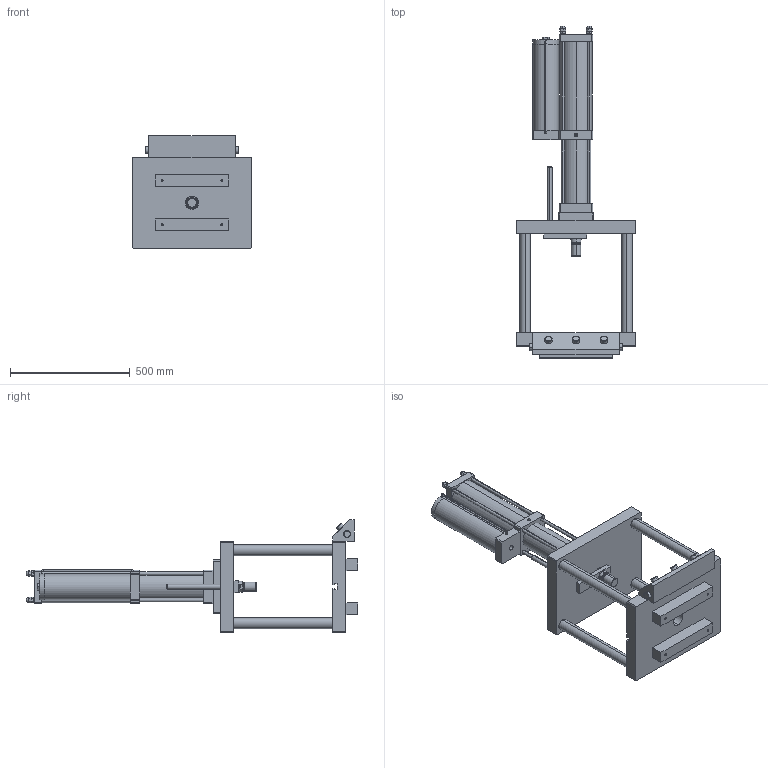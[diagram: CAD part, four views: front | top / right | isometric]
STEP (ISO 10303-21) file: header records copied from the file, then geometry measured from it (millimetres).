
FILE_DESCRIPTION (( 'STEP AP203' ), '1' );
FILE_NAME ('MMH-10T13T.STEP', '2016-03-29T07:41:54', ( 'WIN' ), ( '' ), 'SwSTEP 2.0', 'SolidWorks 2014', '' );
FILE_SCHEMA (( 'CONFIG_CONTROL_DESIGN' ));
Length unit declared in the file: millimetre
Products named in the file (1): MMH-10T13T
Bounding box: 500 x 1385.5 x 470 mm (x, y, z)
Volume: 32946359.8 mm3; surface area: 2551909.4 mm2
Topology: 1 solids, 8 shells, 598 faces, 1445 edges, 888 vertices
Faces by surface type: plane 312, cylinder 133, torus 82, cone 47, bspline 24
Entity records: 17805 total; most frequent: CARTESIAN_POINT 3582, DIRECTION 3086, ORIENTED_EDGE 2838, EDGE_CURVE 1419, AXIS2_PLACEMENT_3D 1130, VERTEX_POINT 888, VECTOR 826, LINE 826
